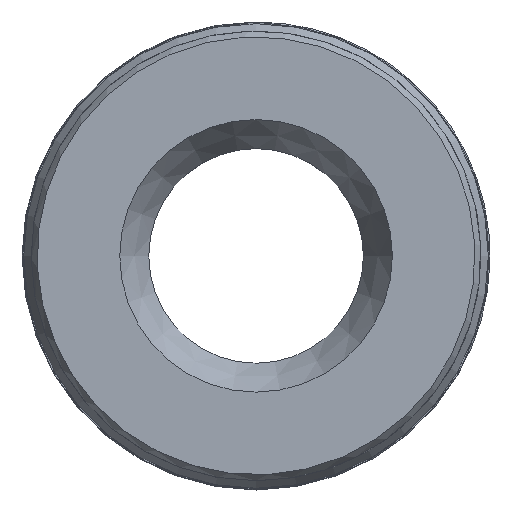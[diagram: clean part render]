
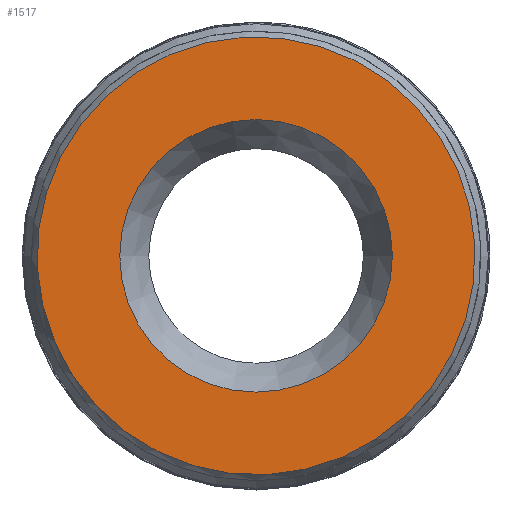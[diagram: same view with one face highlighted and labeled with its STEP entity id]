
A CAD part, top view. The second image highlights one B-rep face of the part: STEP entity #1517.
In plain terms, the highlighted planar face has unit normal (0, 0, 1).
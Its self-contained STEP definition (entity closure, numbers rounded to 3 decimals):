
#151=FACE_BOUND('',#324,.T.);
#171=PLANE('',#1673);
#226=FACE_OUTER_BOUND('',#323,.T.);
#323=EDGE_LOOP('',(#1248));
#324=EDGE_LOOP('',(#1249));
#549=CIRCLE('',#1674,75.5);
#550=CIRCLE('',#1675,47.);
#699=VERTEX_POINT('',#3180);
#700=VERTEX_POINT('',#3182);
#906=EDGE_CURVE('',#699,#699,#549,.T.);
#907=EDGE_CURVE('',#700,#700,#550,.T.);
#1248=ORIENTED_EDGE('',*,*,#906,.F.);
#1249=ORIENTED_EDGE('',*,*,#907,.F.);
#1517=ADVANCED_FACE('',(#226,#151),#171,.T.);
#1673=AXIS2_PLACEMENT_3D('',#3179,#1979,#1980);
#1674=AXIS2_PLACEMENT_3D('',#3181,#1981,#1982);
#1675=AXIS2_PLACEMENT_3D('',#3183,#1983,#1984);
#1979=DIRECTION('center_axis',(0.,0.,1.));
#1980=DIRECTION('ref_axis',(1.,0.,0.));
#1981=DIRECTION('center_axis',(0.,0.,-1.));
#1982=DIRECTION('ref_axis',(0.,1.,0.));
#1983=DIRECTION('center_axis',(0.,0.,1.));
#1984=DIRECTION('ref_axis',(-1.,0.,0.));
#3179=CARTESIAN_POINT('Origin',(0.,-40.,65.));
#3180=CARTESIAN_POINT('',(60.396,-45.305,65.));
#3181=CARTESIAN_POINT('Origin',(0.,0.,65.));
#3182=CARTESIAN_POINT('',(47.,0.,65.));
#3183=CARTESIAN_POINT('Origin',(0.,0.,65.));
